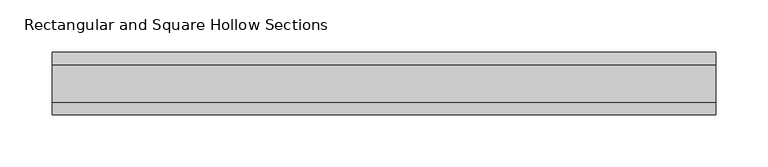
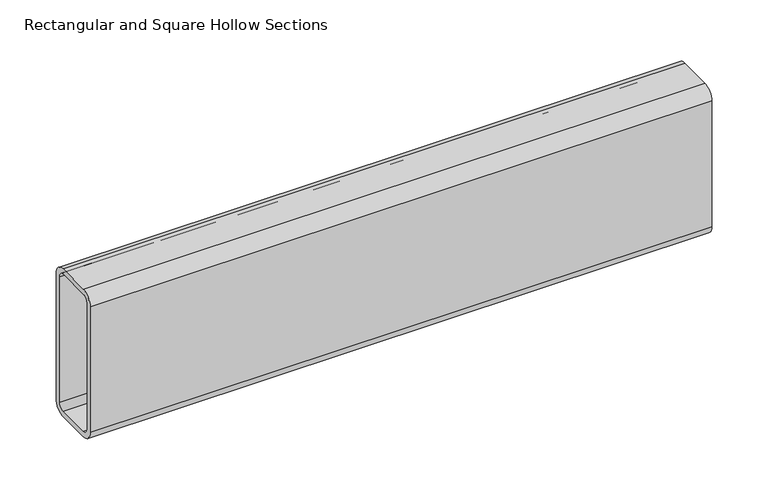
"""IFC4 building model written with IfcOpenShell, lengths in millimetres: beam geometry, Rectangular and Square Hollow Sections : TREC160x60x6."""

from ifc_helpers import new_model, si_unit, point, frame, frame_2d, origin, place, context, project, spatial, polyline, circle_curve, trimmed, segment, composite_curve, outline, extrude, source, transform, mapped, element, save


def rectangular_and_square_hollow_sections_4ff3a7e4(model_context):
    return source(origin(), model_context, "Body", "SweptSolid", [
        extrude(outline(composite_curve([segment(polyline([(30.0, 68.0), (30.0, -68.0)]), True, "CONTINUOUS"), segment(trimmed(circle_curve(frame_2d((18.0, -68.0)), 12.0), [point((30.0, -68.0))], [point((18.0, -80.0))], False, "CARTESIAN"), True, "CONTINUOUS"), segment(polyline([(18.0, -80.0), (-18.0, -80.0)]), True, "CONTINUOUS"), segment(trimmed(circle_curve(frame_2d((-18.0, -68.0)), 12.0), [point((-18.0, -80.0))], [point((-30.0, -68.0))], False, "CARTESIAN"), True, "CONTINUOUS"), segment(polyline([(-30.0, -68.0), (-30.0, 68.0)]), True, "CONTINUOUS"), segment(trimmed(circle_curve(frame_2d((-18.0, 68.0)), 12.0), [point((-30.0, 68.0))], [point((-18.0, 80.0))], False, "CARTESIAN"), True, "CONTINUOUS"), segment(polyline([(-18.0, 80.0), (18.0, 80.0)]), True, "CONTINUOUS"), segment(trimmed(circle_curve(frame_2d((18.0, 68.0)), 12.0), [point((18.0, 80.0))], [point((30.0, 68.0))], False, "CARTESIAN"), True, "CONTINUOUS")], self_intersect=False), holes=[composite_curve([segment(trimmed(circle_curve(frame_2d((-18.0, 68.0)), 6.0), [point((-18.0, 74.0))], [point((-24.0, 68.0))], True, "CARTESIAN"), True, "CONTINUOUS"), segment(polyline([(-24.0, 68.0), (-24.0, -68.0)]), True, "CONTINUOUS"), segment(trimmed(circle_curve(frame_2d((-18.0, -68.0)), 6.0), [point((-24.0, -68.0))], [point((-18.0, -74.0))], True, "CARTESIAN"), True, "CONTINUOUS"), segment(polyline([(-18.0, -74.0), (18.0, -74.0)]), True, "CONTINUOUS"), segment(trimmed(circle_curve(frame_2d((18.0, -68.0)), 6.0), [point((18.0, -74.0))], [point((24.0, -68.0))], True, "CARTESIAN"), True, "CONTINUOUS"), segment(polyline([(24.0, -68.0), (24.0, 68.0)]), True, "CONTINUOUS"), segment(trimmed(circle_curve(frame_2d((18.0, 68.0)), 6.0), [point((24.0, 68.0))], [point((18.0, 74.0))], True, "CARTESIAN"), True, "CONTINUOUS"), segment(polyline([(18.0, 74.0), (-18.0, 74.0)]), True, "CONTINUOUS")], self_intersect=False)]), frame((-303.0, 0.0, 0.0), z_axis=(1.0, 0.0, 0.0), x_axis=(0.0, 1.0, 0.0)), (0.0, 0.0, 1.0), 637.0),
    ])


if __name__ == "__main__":
    model = new_model("IFC4")
    model_context = context("Model", 3, world=origin())
    ifc_project = project(units=[si_unit("LENGTHUNIT", "METRE", prefix="MILLI")], contexts=[model_context])
    site = spatial("IfcSite", under=ifc_project)
    building = spatial("IfcBuilding", under=site)
    placement = place(None, origin())
    rectangular_and_square_hollow_sections_shape = rectangular_and_square_hollow_sections_4ff3a7e4(model_context)
    element("IfcBeam", 1, ObjectType="Rectangular and Square Hollow Sections : TREC160x60x6", at=placement, inside=building, context=model_context, shape_type="MappedRepresentation", body=[
        mapped(rectangular_and_square_hollow_sections_shape, transform((0.0, 0.0, 0.0), x_axis=(1.0, 0.0, 0.0), y_axis=(0.0, 1.0, 0.0), z_axis=(0.0, 0.0, 1.0))),
    ])
    save(model, "model.ifc")
